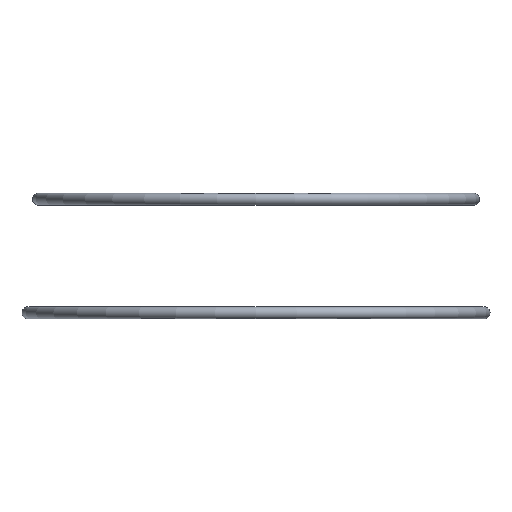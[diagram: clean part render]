
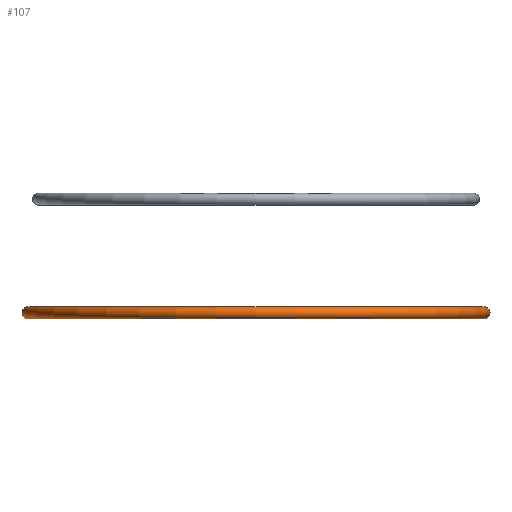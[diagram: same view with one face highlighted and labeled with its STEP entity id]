
A CAD part, front view. The second image highlights one B-rep face of the part: STEP entity #107.
In plain terms, the highlighted toroidal (fillet/blend) face has major radius 43.815 mm and minor radius 1.143 mm.
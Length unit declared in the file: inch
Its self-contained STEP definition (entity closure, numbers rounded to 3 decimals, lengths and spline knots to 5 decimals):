
#7=CARTESIAN_POINT('',(1.725,0.,0.045));
#8=DIRECTION('',(0.,1.,0.));
#9=DIRECTION('',(0.,0.,1.));
#10=AXIS2_PLACEMENT_3D('',#7,#8,#9);
#12=CARTESIAN_POINT('',(-1.725,0.,0.045));
#13=DIRECTION('',(0.,-1.,0.));
#14=DIRECTION('',(0.,0.,1.));
#15=AXIS2_PLACEMENT_3D('',#12,#13,#14);
#17=CARTESIAN_POINT('',(0.,0.,0.09));
#18=DIRECTION('',(0.,0.,-1.));
#19=DIRECTION('',(1.,0.,0.));
#20=AXIS2_PLACEMENT_3D('',#17,#18,#19);
#22=CARTESIAN_POINT('',(0.,0.,0.));
#23=DIRECTION('',(0.,0.,-1.));
#24=DIRECTION('',(1.,0.,0.));
#25=AXIS2_PLACEMENT_3D('',#22,#23,#24);
#62=CARTESIAN_POINT('',(1.725,0.,0.09));
#63=CARTESIAN_POINT('',(1.725,0.,0.));
#64=VERTEX_POINT('',#62);
#65=VERTEX_POINT('',#63);
#70=CARTESIAN_POINT('',(-1.725,0.,0.09));
#71=CARTESIAN_POINT('',(-1.725,0.,0.));
#72=VERTEX_POINT('',#70);
#73=VERTEX_POINT('',#71);
#94=CARTESIAN_POINT('',(0.,0.,0.045));
#95=DIRECTION('',(0.,0.,1.));
#96=DIRECTION('',(-1.,0.,0.));
#97=AXIS2_PLACEMENT_3D('',#94,#95,#96);
#98=TOROIDAL_SURFACE('',#97,1.725,0.045);
#99=ORIENTED_EDGE('',*,*,#83,.T.);
#101=ORIENTED_EDGE('',*,*,#100,.T.);
#102=ORIENTED_EDGE('',*,*,#87,.F.);
#104=ORIENTED_EDGE('',*,*,#103,.F.);
#105=EDGE_LOOP('',(#99,#101,#102,#104));
#106=FACE_OUTER_BOUND('',#105,.F.);
#107=ADVANCED_FACE('',(#106),#98,.T.);
#11=CIRCLE('',#10,0.045);
#16=CIRCLE('',#15,0.045);
#21=CIRCLE('',#20,1.725);
#26=CIRCLE('',#25,1.725);
#83=EDGE_CURVE('',#64,#65,#11,.T.);
#87=EDGE_CURVE('',#72,#73,#16,.T.);
#100=EDGE_CURVE('',#65,#73,#26,.T.);
#103=EDGE_CURVE('',#64,#72,#21,.T.);
